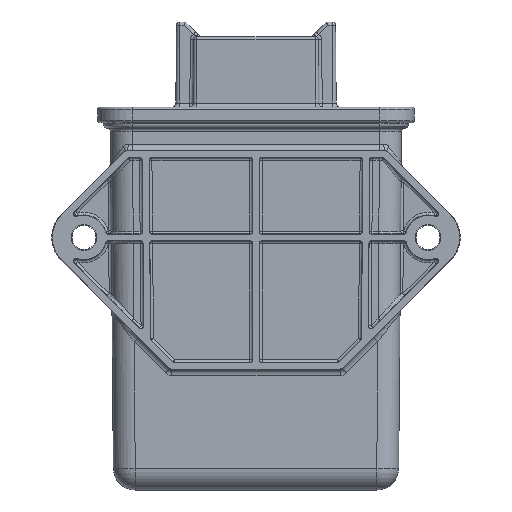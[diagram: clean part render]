
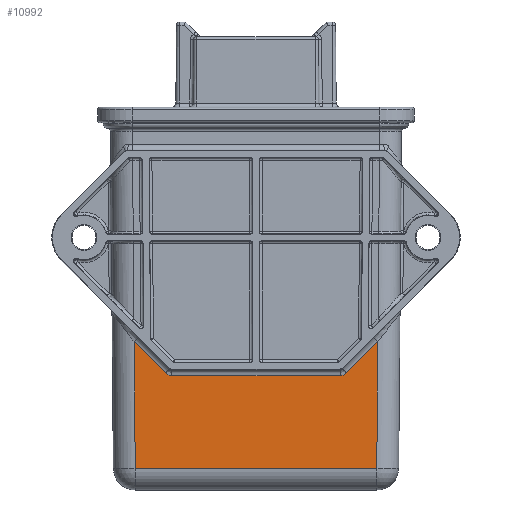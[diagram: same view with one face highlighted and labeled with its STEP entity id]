
A CAD part, front view. The second image highlights one B-rep face of the part: STEP entity #10992.
In plain terms, the highlighted planar face has unit normal (0, -1, -0.009).
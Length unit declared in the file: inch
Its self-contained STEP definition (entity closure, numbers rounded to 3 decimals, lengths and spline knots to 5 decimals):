
#500=ELLIPSE('',#11838,0.08401,0.084);
#501=ELLIPSE('',#11839,0.08401,0.084);
#1179=FACE_OUTER_BOUND('',#1848,.T.);
#1848=EDGE_LOOP('',(#8406,#8407,#8408,#8409,#8410,#8411,#8412,#8413));
#3064=LINE('',#19004,#3862);
#3065=LINE('',#19008,#3863);
#3066=LINE('',#19010,#3864);
#3067=LINE('',#19012,#3865);
#3068=LINE('',#19014,#3866);
#3069=LINE('',#19016,#3867);
#3862=VECTOR('',#13910,0.3937);
#3863=VECTOR('',#13913,0.3937);
#3864=VECTOR('',#13914,0.3937);
#3865=VECTOR('',#13915,0.3937);
#3866=VECTOR('',#13916,0.3937);
#3867=VECTOR('',#13917,0.3937);
#4740=VERTEX_POINT('',#19002);
#4741=VERTEX_POINT('',#19003);
#4742=VERTEX_POINT('',#19005);
#4743=VERTEX_POINT('',#19007);
#4744=VERTEX_POINT('',#19009);
#4745=VERTEX_POINT('',#19011);
#4746=VERTEX_POINT('',#19013);
#4747=VERTEX_POINT('',#19015);
#6000=EDGE_CURVE('',#4740,#4741,#3064,.T.);
#6001=EDGE_CURVE('',#4742,#4740,#500,.T.);
#6002=EDGE_CURVE('',#4743,#4742,#3065,.T.);
#6003=EDGE_CURVE('',#4744,#4743,#3066,.T.);
#6004=EDGE_CURVE('',#4745,#4744,#3067,.T.);
#6005=EDGE_CURVE('',#4746,#4745,#3068,.T.);
#6006=EDGE_CURVE('',#4747,#4746,#3069,.T.);
#6007=EDGE_CURVE('',#4741,#4747,#501,.T.);
#8406=ORIENTED_EDGE('',*,*,#6000,.F.);
#8407=ORIENTED_EDGE('',*,*,#6001,.F.);
#8408=ORIENTED_EDGE('',*,*,#6002,.F.);
#8409=ORIENTED_EDGE('',*,*,#6003,.F.);
#8410=ORIENTED_EDGE('',*,*,#6004,.F.);
#8411=ORIENTED_EDGE('',*,*,#6005,.F.);
#8412=ORIENTED_EDGE('',*,*,#6006,.F.);
#8413=ORIENTED_EDGE('',*,*,#6007,.F.);
#9956=PLANE('',#11837);
#10992=ADVANCED_FACE('',(#1179),#9956,.T.);
#11837=AXIS2_PLACEMENT_3D('',#19001,#13908,#13909);
#11838=AXIS2_PLACEMENT_3D('',#19006,#13911,#13912);
#11839=AXIS2_PLACEMENT_3D('',#19017,#13918,#13919);
#13908=DIRECTION('center_axis',(0.,-1.,
-0.009));
#13909=DIRECTION('ref_axis',(-1.,0.,0.));
#13910=DIRECTION('',(1.,0.,0.));
#13911=DIRECTION('center_axis',(0.,-1.,
-0.009));
#13912=DIRECTION('ref_axis',(-0.203,0.009,-0.979));
#13913=DIRECTION('',(0.707,0.006,-0.707));
#13914=DIRECTION('',(-0.009,-0.009,1.));
#13915=DIRECTION('',(-1.,0.,0.));
#13916=DIRECTION('',(-0.009,0.009,-1.));
#13917=DIRECTION('',(0.707,-0.006,0.707));
#13918=DIRECTION('center_axis',(0.,-1.,
-0.009));
#13919=DIRECTION('ref_axis',(0.203,0.009,-0.979));
#19001=CARTESIAN_POINT('Origin',(-1.316,-0.57212,0.));
#19002=CARTESIAN_POINT('',(-0.75953,-0.55141,-2.37298));
#19003=CARTESIAN_POINT('',(0.75953,-0.55141,-2.37298));
#19004=CARTESIAN_POINT('',(-1.04274,-0.55141,-2.37298));
#19005=CARTESIAN_POINT('',(-0.81892,-0.55163,-2.34838));
#19006=CARTESIAN_POINT('Origin',(-0.75953,-0.55215,
-2.28897));
#19007=CARTESIAN_POINT('',(-1.10017,-0.55408,-2.06719));
#19008=CARTESIAN_POINT('',(-2.02006,-0.56211,-1.14752));
#19009=CARTESIAN_POINT('',(-1.0903,-0.54412,-3.20901));
#19010=CARTESIAN_POINT('',(-1.11803,-0.57209,-0.00328));
#19011=CARTESIAN_POINT('',(1.0903,-0.54412,-3.20901));
#19012=CARTESIAN_POINT('',(-0.658,-0.54412,-3.20901));
#19013=CARTESIAN_POINT('',(1.10017,-0.55408,-2.06719));
#19014=CARTESIAN_POINT('',(1.11797,-0.57204,-0.00967));
#19015=CARTESIAN_POINT('',(0.81892,-0.55163,-2.34838));
#19016=CARTESIAN_POINT('',(0.86893,-0.55207,-2.29838));
#19017=CARTESIAN_POINT('Origin',(0.75953,-0.55215,-2.28897));
